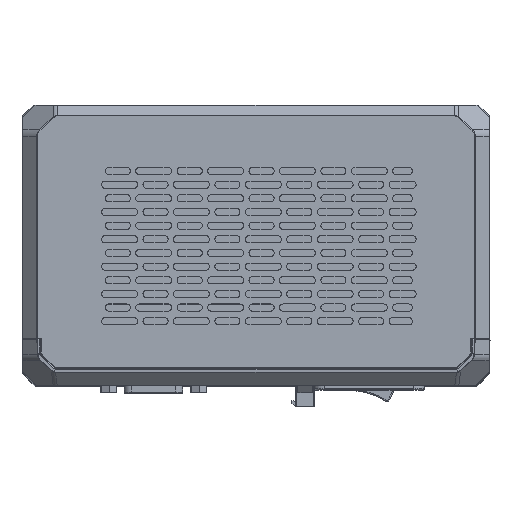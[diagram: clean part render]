
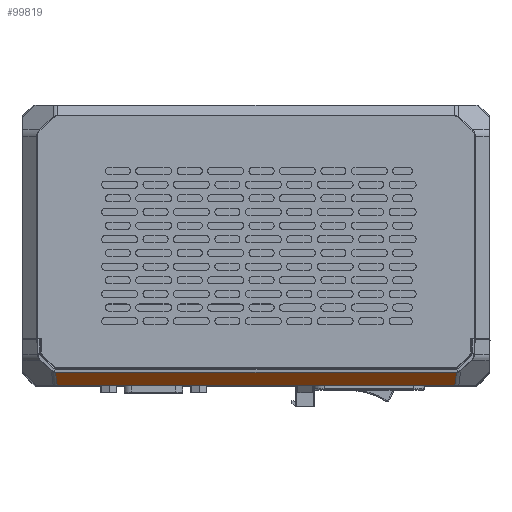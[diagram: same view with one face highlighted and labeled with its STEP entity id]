
A CAD part, top view. The second image highlights one B-rep face of the part: STEP entity #99819.
In plain terms, the highlighted planar face has unit normal (0, -0.693, 0.721).
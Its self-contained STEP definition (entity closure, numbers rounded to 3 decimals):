
#18703=DIRECTION('',(1.,0.,0.));
#18704=VECTOR('',#18703,110.66);
#18705=CARTESIAN_POINT('',(-50.822,-67.,
150.075));
#18706=LINE('',#18705,#18704);
#18707=CARTESIAN_POINT('',(59.838,-67.,
150.075));
#19940=DIRECTION('',(-0.093,-0.718,-0.69));
#19941=VECTOR('',#19940,4.931);
#19942=CARTESIAN_POINT('',(60.294,-63.461,
153.478));
#19943=LINE('',#19942,#19941);
#19944=DIRECTION('',(-0.093,0.718,0.69));
#19945=VECTOR('',#19944,4.931);
#19946=CARTESIAN_POINT('',(-50.822,-67.,
150.075));
#19947=LINE('',#19946,#19945);
#19956=CARTESIAN_POINT('',(60.294,-63.461,
153.478));
#19958=DIRECTION('',(-1.,0.,0.));
#19959=VECTOR('',#19958,111.573);
#19960=CARTESIAN_POINT('',(60.294,-63.461,
153.478));
#19961=LINE('',#19960,#19959);
#19967=CARTESIAN_POINT('',(-51.279,-63.461,
153.478));
#68825=VERTEX_POINT('',#19967);
#68826=CARTESIAN_POINT('',(-50.822,-67.,
150.075));
#68827=VERTEX_POINT('',#68826);
#68829=VERTEX_POINT('',#19956);
#68834=VERTEX_POINT('',#18707);
#99806=CARTESIAN_POINT('',(-51.913,-67.,
150.075));
#99807=DIRECTION('',(0.,-0.693,0.721));
#99808=DIRECTION('',(1.,0.,0.));
#99809=AXIS2_PLACEMENT_3D('',#99806,#99807,#99808);
#99810=PLANE('',#99809);
#99812=ORIENTED_EDGE('',*,*,#99811,.F.);
#99813=ORIENTED_EDGE('',*,*,#99683,.T.);
#99814=ORIENTED_EDGE('',*,*,#98209,.F.);
#99816=ORIENTED_EDGE('',*,*,#99815,.T.);
#99817=EDGE_LOOP('',(#99812,#99813,#99814,#99816));
#99818=FACE_OUTER_BOUND('',#99817,.F.);
#99819=ADVANCED_FACE('',(#99818),#99810,.T.);
#98209=EDGE_CURVE('',#68827,#68834,#18706,.T.);
#99683=EDGE_CURVE('',#68829,#68834,#19943,.T.);
#99811=EDGE_CURVE('',#68829,#68825,#19961,.T.);
#99815=EDGE_CURVE('',#68827,#68825,#19947,.T.);
